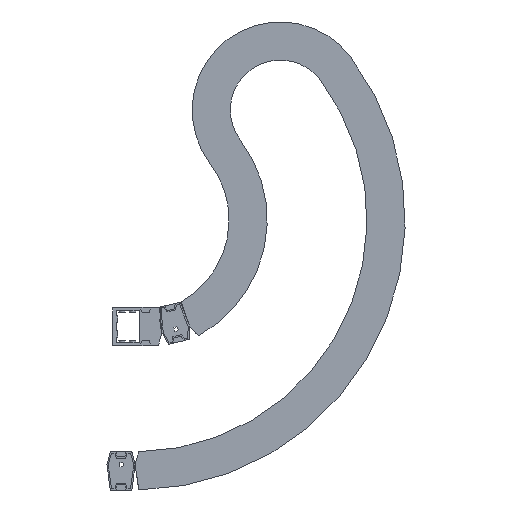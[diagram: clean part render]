
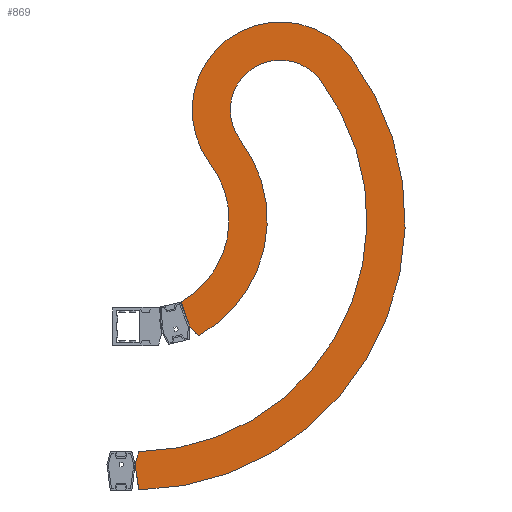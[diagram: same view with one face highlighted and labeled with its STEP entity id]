
A CAD part, front view. The second image highlights one B-rep face of the part: STEP entity #869.
In plain terms, the highlighted planar face has unit normal (0, -1, 0).
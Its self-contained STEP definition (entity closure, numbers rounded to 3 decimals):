
#869 = ADVANCED_FACE( '', ( #1853 ), #1854, .F. );
#1853 = FACE_OUTER_BOUND( '', #2959, .T. );
#1854 = PLANE( '', #2960 );
#2959 = EDGE_LOOP( '', ( #5377, #5378, #5379, #5380, #5381, #5382, #5383, #5384, #5385, #5386 ) );
#2960 = AXIS2_PLACEMENT_3D( '', #5387, #5388, #5389 );
#5377 = ORIENTED_EDGE( '', *, *, #7812, .F. );
#5378 = ORIENTED_EDGE( '', *, *, #6921, .F. );
#5379 = ORIENTED_EDGE( '', *, *, #7813, .F. );
#5380 = ORIENTED_EDGE( '', *, *, #7814, .T. );
#5381 = ORIENTED_EDGE( '', *, *, #7815, .F. );
#5382 = ORIENTED_EDGE( '', *, *, #7753, .F. );
#5383 = ORIENTED_EDGE( '', *, *, #7280, .F. );
#5384 = ORIENTED_EDGE( '', *, *, #7016, .T. );
#5385 = ORIENTED_EDGE( '', *, *, #7672, .T. );
#5386 = ORIENTED_EDGE( '', *, *, #6973, .F. );
#5387 = CARTESIAN_POINT( '', ( 0., -39., 0. ) );
#5388 = DIRECTION( '', ( 0., 1., 0. ) );
#5389 = DIRECTION( '', ( 0., 0., 1. ) );
#6921 = EDGE_CURVE( '', #8379, #8380, #8381, .T. );
#6973 = EDGE_CURVE( '', #8469, #8471, #8472, .T. );
#7016 = EDGE_CURVE( '', #8547, #8548, #8549, .T. );
#7280 = EDGE_CURVE( '', #8547, #8993, #8994, .T. );
#7672 = EDGE_CURVE( '', #8548, #8471, #9592, .T. );
#7753 = EDGE_CURVE( '', #8993, #9703, #9704, .T. );
#7812 = EDGE_CURVE( '', #8380, #8469, #9777, .T. );
#7813 = EDGE_CURVE( '', #9778, #8379, #9779, .T. );
#7814 = EDGE_CURVE( '', #9778, #9780, #9781, .T. );
#7815 = EDGE_CURVE( '', #9703, #9780, #9782, .T. );
#8379 = VERTEX_POINT( '', #10490 );
#8380 = VERTEX_POINT( '', #10491 );
#8381 = CIRCLE( '', #10492, 460. );
#8469 = VERTEX_POINT( '', #10609 );
#8471 = VERTEX_POINT( '', #10612 );
#8472 = LINE( '', #10613, #10614 );
#8547 = VERTEX_POINT( '', #10716 );
#8548 = VERTEX_POINT( '', #10717 );
#8549 = CIRCLE( '', #10718, 85. );
#8993 = VERTEX_POINT( '', #11332 );
#8994 = CIRCLE( '', #11333, 225. );
#9592 = CIRCLE( '', #12201, 395. );
#9703 = VERTEX_POINT( '', #12358 );
#9704 = LINE( '', #12359, #12360 );
#9777 = LINE( '', #12465, #12466 );
#9778 = VERTEX_POINT( '', #12467 );
#9779 = CIRCLE( '', #12468, 150. );
#9780 = VERTEX_POINT( '', #12469 );
#9781 = CIRCLE( '', #12470, 160. );
#9782 = LINE( '', #12471, #12472 );
#10490 = CARTESIAN_POINT( '', ( 366.69, -39., 277.738 ) );
#10491 = CARTESIAN_POINT( '', ( 6.293, -39., -459.957 ) );
#10492 = AXIS2_PLACEMENT_3D( '', #13139, #13140, #13141 );
#10609 = CARTESIAN_POINT( '', ( 0., -39., -417. ) );
#10612 = CARTESIAN_POINT( '', ( 6.1, -39., -394.953 ) );
#10613 = CARTESIAN_POINT( '', ( 0., -39., -417. ) );
#10614 = VECTOR( '', #13205, 1000. );
#10716 = CARTESIAN_POINT( '', ( 179.359, -39., 135.85 ) );
#10717 = CARTESIAN_POINT( '', ( 314.875, -39., 238.492 ) );
#10718 = AXIS2_PLACEMENT_3D( '', #13254, #13255, #13256 );
#11332 = CARTESIAN_POINT( '', ( 107.844, -39., -197.471 ) );
#11333 = AXIS2_PLACEMENT_3D( '', #13583, #13584, #13585 );
#12201 = AXIS2_PLACEMENT_3D( '', #13958, #13959, #13960 );
#12358 = CARTESIAN_POINT( '', ( 92.462, -39., -180.72 ) );
#12359 = CARTESIAN_POINT( '', ( 107.844, -39., -197.471 ) );
#12360 = VECTOR( '', #14052, 1000. );
#12465 = CARTESIAN_POINT( '', ( 6.293, -39., -459.957 ) );
#12466 = VECTOR( '', #14097, 1000. );
#12467 = CARTESIAN_POINT( '', ( 127.544, -39., 96.604 ) );
#12468 = AXIS2_PLACEMENT_3D( '', #14098, #14099, #14100 );
#12469 = CARTESIAN_POINT( '', ( 78.444, -39., -139.451 ) );
#12470 = AXIS2_PLACEMENT_3D( '', #14101, #14102, #14103 );
#12471 = CARTESIAN_POINT( '', ( 92.462, -39., -180.72 ) );
#12472 = VECTOR( '', #14104, 1000. );
#13139 = CARTESIAN_POINT( '', ( 0., -39., 0. ) );
#13140 = DIRECTION( '', ( 0., 1., 0. ) );
#13141 = DIRECTION( '', ( 1., 0., 0. ) );
#13205 = DIRECTION( '', ( 0.267, 0., 0.964 ) );
#13254 = CARTESIAN_POINT( '', ( 247.117, -39., 187.171 ) );
#13255 = DIRECTION( '', ( 0., 1., 0. ) );
#13256 = DIRECTION( '', ( 1., 0., 0. ) );
#13583 = CARTESIAN_POINT( '', ( 0., -39., 0. ) );
#13584 = DIRECTION( '', ( 0., 1., 0. ) );
#13585 = DIRECTION( '', ( 1., 0., 0. ) );
#13958 = CARTESIAN_POINT( '', ( 0., -39., 0. ) );
#13959 = DIRECTION( '', ( 0., 1., 0. ) );
#13960 = DIRECTION( '', ( 1., 0., 0. ) );
#14052 = DIRECTION( '', ( -0.676, 0., 0.737 ) );
#14097 = DIRECTION( '', ( -0.145, 0., 0.989 ) );
#14098 = CARTESIAN_POINT( '', ( 247.117, -39., 187.171 ) );
#14099 = DIRECTION( '', ( 0., 1., 0. ) );
#14100 = DIRECTION( '', ( 1., 0., 0. ) );
#14101 = CARTESIAN_POINT( '', ( 0., -39., 0. ) );
#14102 = DIRECTION( '', ( 0., 1., 0. ) );
#14103 = DIRECTION( '', ( 1., 0., 0. ) );
#14104 = DIRECTION( '', ( -0.322, 0., 0.947 ) );
